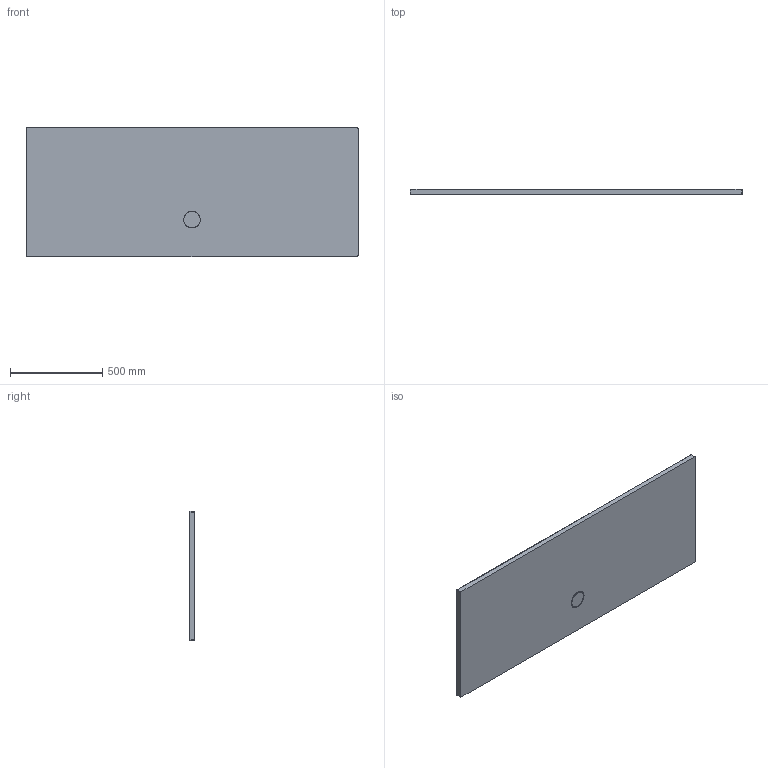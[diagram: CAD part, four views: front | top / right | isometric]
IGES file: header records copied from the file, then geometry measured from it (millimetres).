
Start section: SolidWorks IGES file using analytic representation for surfaces
Global section: file name: D:\Users\M.Szymanski\Desktop\B-M_Space\B_M_70x180x1,5.IGS; native system: SolidWorks 2011; preprocessor: SolidWorks 2011; author: M.Szymanski; date: 180216.080119; units: millimetre
Bounding box: 1800 x 30 x 700 mm (x, y, z)
Surface area: 2682628.3 mm2 (no closed solid volume)
Topology: 0 solids, 0 shells, 61 faces, 743 edges, 740 vertices
Faces by surface type: bspline 39, revolution 22
